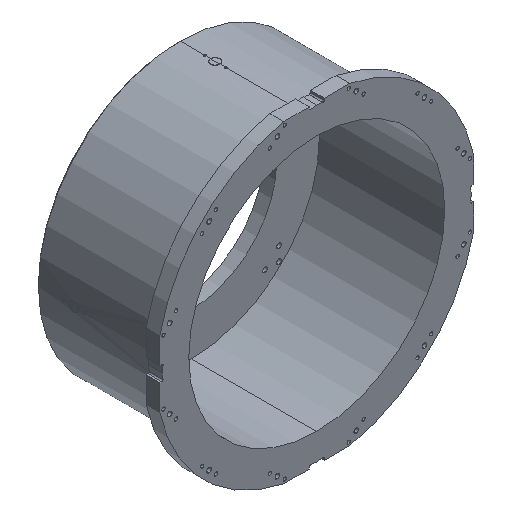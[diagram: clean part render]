
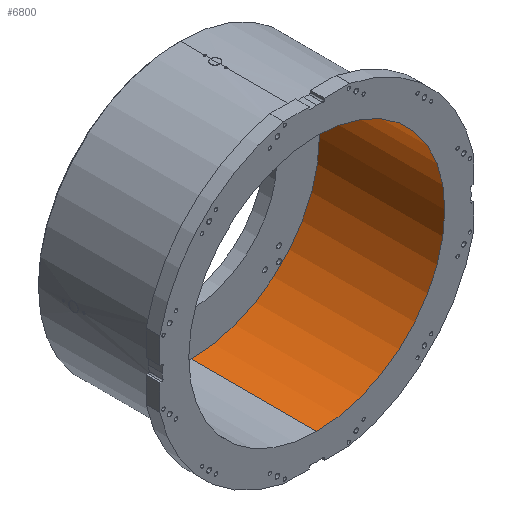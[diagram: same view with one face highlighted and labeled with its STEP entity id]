
A CAD part, isometric view. The second image highlights one B-rep face of the part: STEP entity #6800.
In plain terms, the highlighted cylindrical face has radius 555 mm (diameter 1110 mm), a partial arc.
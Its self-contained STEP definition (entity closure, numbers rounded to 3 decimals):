
#81 = DIRECTION ( 'NONE',  ( 0., 0., 1. ) ) ;
#501 = VERTEX_POINT ( 'NONE', #9703 ) ;
#1139 = VECTOR ( 'NONE', #10103, 1000. ) ;
#2367 = DIRECTION ( 'NONE',  ( 0., 0., 1. ) ) ;
#2790 = VERTEX_POINT ( 'NONE', #3818 ) ;
#3476 = VERTEX_POINT ( 'NONE', #4523 ) ;
#3547 = EDGE_CURVE ( 'NONE', #3476, #2790, #3653, .T. ) ;
#3567 = AXIS2_PLACEMENT_3D ( 'NONE', #11958, #5552, #81 ) ;
#3638 = LINE ( 'NONE', #6977, #1139 ) ;
#3653 = CIRCLE ( 'NONE', #5484, 555. ) ;
#3818 = CARTESIAN_POINT ( 'NONE',  ( 0., 544., -555. ) ) ;
#4523 = CARTESIAN_POINT ( 'NONE',  ( 0., 544., 555. ) ) ;
#4767 = VECTOR ( 'NONE', #11042, 1000. ) ;
#5380 = VERTEX_POINT ( 'NONE', #10475 ) ;
#5484 = AXIS2_PLACEMENT_3D ( 'NONE', #10893, #5729, #12904 ) ;
#5552 = DIRECTION ( 'NONE',  ( 0., 1., 0. ) ) ;
#5678 = CYLINDRICAL_SURFACE ( 'NONE', #13478, 555. ) ;
#5729 = DIRECTION ( 'NONE',  ( 0., 1., 0. ) ) ;
#6600 = CARTESIAN_POINT ( 'NONE',  ( 0., 0., 0. ) ) ;
#6800 = ADVANCED_FACE ( 'NONE', ( #9471 ), #5678, .F. ) ;
#6977 = CARTESIAN_POINT ( 'NONE',  ( 0., 0., -555. ) ) ;
#7416 = EDGE_LOOP ( 'NONE', ( #9028, #10966, #11037, #8049 ) ) ;
#8049 = ORIENTED_EDGE ( 'NONE', *, *, #3547, .T. ) ;
#8714 = EDGE_CURVE ( 'NONE', #5380, #501, #12517, .T. ) ;
#8757 = DIRECTION ( 'NONE',  ( 0., 1., 0. ) ) ;
#9028 = ORIENTED_EDGE ( 'NONE', *, *, #12879, .F. ) ;
#9471 = FACE_OUTER_BOUND ( 'NONE', #7416, .T. ) ;
#9703 = CARTESIAN_POINT ( 'NONE',  ( 0., 0., -555. ) ) ;
#10103 = DIRECTION ( 'NONE',  ( 0., 1., 0. ) ) ;
#10273 = LINE ( 'NONE', #13111, #4767 ) ;
#10475 = CARTESIAN_POINT ( 'NONE',  ( 0., 0., 555. ) ) ;
#10893 = CARTESIAN_POINT ( 'NONE',  ( 0., 544., 0. ) ) ;
#10966 = ORIENTED_EDGE ( 'NONE', *, *, #8714, .F. ) ;
#11037 = ORIENTED_EDGE ( 'NONE', *, *, #13573, .T. ) ;
#11042 = DIRECTION ( 'NONE',  ( 0., 1., 0. ) ) ;
#11958 = CARTESIAN_POINT ( 'NONE',  ( 0., 0., 0. ) ) ;
#12517 = CIRCLE ( 'NONE', #3567, 555. ) ;
#12879 = EDGE_CURVE ( 'NONE', #501, #2790, #3638, .T. ) ;
#12904 = DIRECTION ( 'NONE',  ( 0., 0., 1. ) ) ;
#13111 = CARTESIAN_POINT ( 'NONE',  ( 0., 0., 555. ) ) ;
#13478 = AXIS2_PLACEMENT_3D ( 'NONE', #6600, #8757, #2367 ) ;
#13573 = EDGE_CURVE ( 'NONE', #5380, #3476, #10273, .T. ) ;
